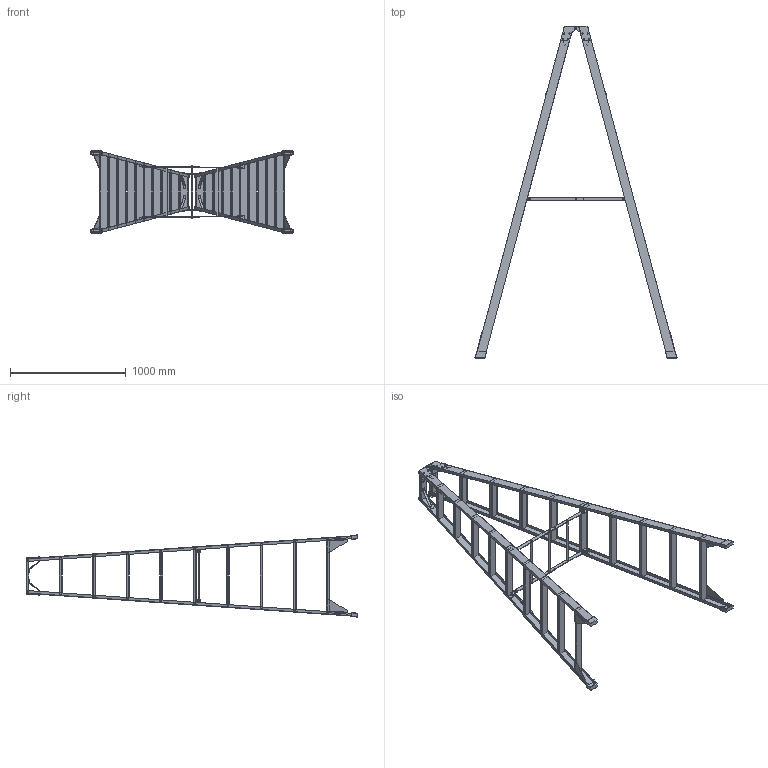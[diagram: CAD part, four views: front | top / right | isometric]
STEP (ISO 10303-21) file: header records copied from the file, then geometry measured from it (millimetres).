
FILE_DESCRIPTION(/* description */ (''),/* implementation_level */ '2;1');
FILE_NAME(/* name */ 'C:\Users\unitec\Documents\Inventor\HP\脚立\脚立-10尺.stp',/* time_stamp */ '2017-03-30T18:20:42+09:00',/* author */ ('unitec'),/* organization */ (''),/* preprocessor_version */ 'ST-DEVELOPER v15.2',/* originating_system */ 'Autodesk Inventor 2014',/* authorisation */ '');
FILE_SCHEMA (('AUTOMOTIVE_DESIGN { 1 0 10303 214 3 1 1 }'));
Length unit declared in the file: millimetre
Products named in the file (1): 脚立-10尺
Bounding box: 1747.65 x 2871.2 x 711.7 mm (x, y, z)
Volume: 21990931 mm3; surface area: 5204959.9 mm2
Topology: 17 solids, 17 shells, 1229 faces, 3177 edges, 2072 vertices
Faces by surface type: plane 874, cylinder 251, bspline 56, sphere 48
Full cylindrical faces by diameter (mm): 10 x16, 15 x23
Entity records: 38570 total; most frequent: CARTESIAN_POINT 8024, ORIENTED_EDGE 6276, DIRECTION 6126, EDGE_CURVE 3138, LINE 2418, VECTOR 2418, VERTEX_POINT 2072, AXIS2_PLACEMENT_3D 1854
